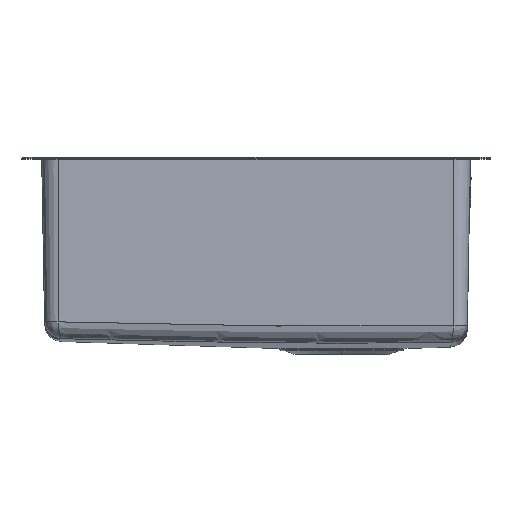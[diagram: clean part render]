
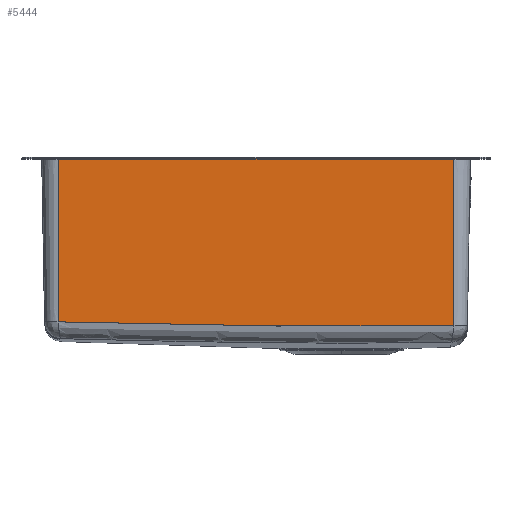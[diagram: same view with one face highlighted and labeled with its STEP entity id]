
A CAD part, top view. The second image highlights one B-rep face of the part: STEP entity #5444.
In plain terms, the highlighted planar face has unit normal (0, -0.018, 1).
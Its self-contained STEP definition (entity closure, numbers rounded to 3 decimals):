
#674 = CARTESIAN_POINT ( 'NONE',  ( -30.934, -157.978, 223.742 ) ) ;
#1643 = CARTESIAN_POINT ( 'NONE',  ( -154.588, -155.431, 223.787 ) ) ;
#2331 = VECTOR ( 'NONE', #6009, 1000. ) ;
#2465 = VERTEX_POINT ( 'NONE', #4965 ) ;
#2675 = CARTESIAN_POINT ( 'NONE',  ( 61.816, -158.816, 223.728 ) ) ;
#2740 = CARTESIAN_POINT ( 'NONE',  ( -61.849, -157.439, 223.752 ) ) ;
#3071 = VERTEX_POINT ( 'NONE', #7920 ) ;
#3299 = EDGE_LOOP ( 'NONE', ( #7329, #6355, #12143, #6100 ) ) ;
#3408 = CARTESIAN_POINT ( 'NONE',  ( 185.5, -1.983, 226.465 ) ) ;
#3567 = CARTESIAN_POINT ( 'NONE',  ( -185.5, -154.647, 223.801 ) ) ;
#3637 = EDGE_CURVE ( 'NONE', #3071, #8892, #7955, .T. ) ;
#3655 = CARTESIAN_POINT ( 'NONE',  ( 15.44, -158.518, 223.733 ) ) ;
#3834 = LINE ( 'NONE', #7720, #10925 ) ;
#3938 = FACE_OUTER_BOUND ( 'NONE', #3299, .T. ) ;
#4202 = AXIS2_PLACEMENT_3D ( 'NONE', #10837, #5881, #11861 ) ;
#4275 = CARTESIAN_POINT ( 'NONE',  ( -185.5, -1.983, 226.465 ) ) ;
#4419 = B_SPLINE_CURVE_WITH_KNOTS ( 'NONE', 3,
 ( #10487, #1643, #5593, #2740, #674, #3655, #7603, #2675, #6638, #5657, #9585, #7011, #11950, #5969 ),
 .UNSPECIFIED., .F., .F.,
 ( 4, 2, 2, 2, 2, 2, 4 ),
 ( 0., 0.093, 0.186, 0.232, 0.278, 0.325, 0.371 ),
 .UNSPECIFIED. ) ;
#4752 = LINE ( 'NONE', #4275, #6594 ) ;
#4965 = CARTESIAN_POINT ( 'NONE',  ( -185.5, -1.983, 226.465 ) ) ;
#5035 = CARTESIAN_POINT ( 'NONE',  ( 185.5, 0., 226.5 ) ) ;
#5444 = ADVANCED_FACE ( 'NONE', ( #3938 ), #11615, .T. ) ;
#5593 = CARTESIAN_POINT ( 'NONE',  ( -123.675, -156.165, 223.774 ) ) ;
#5657 = CARTESIAN_POINT ( 'NONE',  ( 108.195, -158.785, 223.728 ) ) ;
#5881 = DIRECTION ( 'NONE',  ( 0., -0.017, 1. ) ) ;
#5969 = CARTESIAN_POINT ( 'NONE',  ( 185.5, -158.024, 223.742 ) ) ;
#6009 = DIRECTION ( 'NONE',  ( 0., 1., 0.017 ) ) ;
#6100 = ORIENTED_EDGE ( 'NONE', *, *, #10401, .T. ) ;
#6355 = ORIENTED_EDGE ( 'NONE', *, *, #7170, .T. ) ;
#6594 = VECTOR ( 'NONE', #11053, 1000. ) ;
#6638 = CARTESIAN_POINT ( 'NONE',  ( 77.275, -158.843, 223.727 ) ) ;
#7011 = CARTESIAN_POINT ( 'NONE',  ( 154.577, -158.432, 223.735 ) ) ;
#7170 = EDGE_CURVE ( 'NONE', #8892, #2465, #4752, .T. ) ;
#7329 = ORIENTED_EDGE ( 'NONE', *, *, #3637, .T. ) ;
#7603 = CARTESIAN_POINT ( 'NONE',  ( 30.898, -158.653, 223.731 ) ) ;
#7720 = CARTESIAN_POINT ( 'NONE',  ( -185.5, 0., 226.5 ) ) ;
#7840 = DIRECTION ( 'NONE',  ( 0., 1., 0.017 ) ) ;
#7920 = CARTESIAN_POINT ( 'NONE',  ( 185.5, -158.024, 223.742 ) ) ;
#7955 = LINE ( 'NONE', #5035, #2331 ) ;
#8674 = EDGE_CURVE ( 'NONE', #8801, #2465, #3834, .T. ) ;
#8801 = VERTEX_POINT ( 'NONE', #3567 ) ;
#8892 = VERTEX_POINT ( 'NONE', #3408 ) ;
#9585 = CARTESIAN_POINT ( 'NONE',  ( 123.655, -158.701, 223.73 ) ) ;
#10401 = EDGE_CURVE ( 'NONE', #8801, #3071, #4419, .T. ) ;
#10487 = CARTESIAN_POINT ( 'NONE',  ( -185.5, -154.647, 223.801 ) ) ;
#10837 = CARTESIAN_POINT ( 'NONE',  ( -185.5, 0., 226.5 ) ) ;
#10925 = VECTOR ( 'NONE', #7840, 1000. ) ;
#11053 = DIRECTION ( 'NONE',  ( -1., 0., 0. ) ) ;
#11615 = PLANE ( 'NONE',  #4202 ) ;
#11861 = DIRECTION ( 'NONE',  ( 0., -1., -0.017 ) ) ;
#11950 = CARTESIAN_POINT ( 'NONE',  ( 170.038, -158.248, 223.738 ) ) ;
#12143 = ORIENTED_EDGE ( 'NONE', *, *, #8674, .F. ) ;
